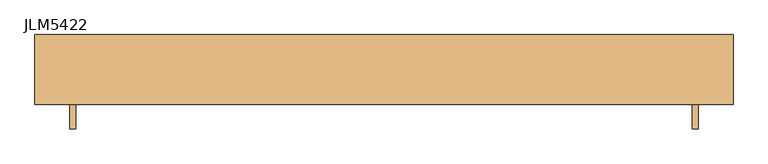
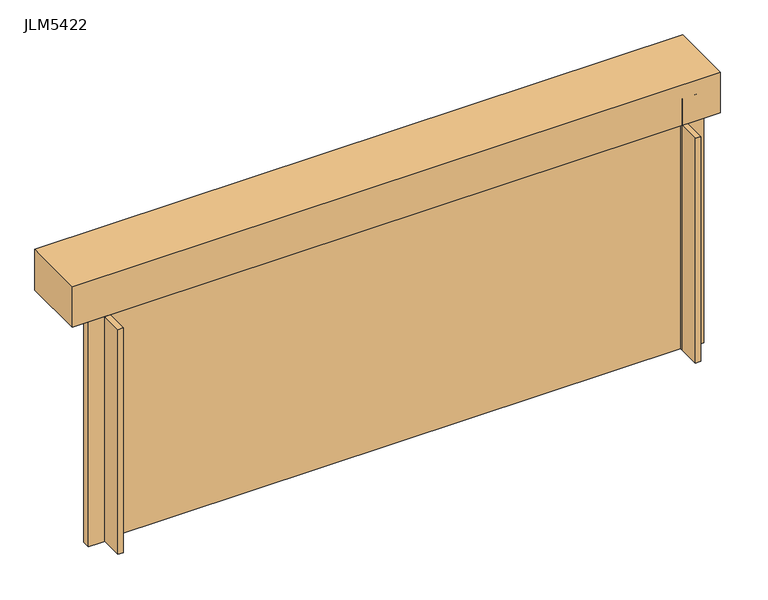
"""IFC4 building model written with IfcOpenShell, lengths in millimetres: door geometry, 卷帘门 : JLM5422."""

from ifc_helpers import new_model, si_unit, frame, origin, origin_with_axes, place, context, project, spatial, polyline, outline, extrude, source, transform, mapped, element, save


def jlm5422_f6e8e53c(model_context):
    return source(origin(), model_context, "Body", "SweptSolid", [
        extrude(outline(polyline([(2700.0, 130.0), (-2700.0, 130.0), (-2700.0, 145.0), (2700.0, 145.0), (2700.0, 130.0)])), origin_with_axes(), (0.0, 0.0, 1.0), 2200.0),
        extrude(outline(polyline([(-2650.0, 105.0), (-2650.0, -105.0), (-2700.0, -105.0), (-2700.0, 105.0), (-2650.0, 105.0)])), origin_with_axes(), (0.0, 0.0, 1.0), 2200.0),
        extrude(outline(polyline([(2700.0, 105.0), (2700.0, -105.0), (2650.0, -105.0), (2650.0, 105.0), (2700.0, 105.0)])), origin_with_axes(), (0.0, 0.0, 1.0), 2200.0),
        extrude(outline(polyline([(3000.0, 105.0), (-3000.0, 105.0), (-3000.0, 705.0), (3000.0, 705.0), (3000.0, 105.0)])), frame((0.0, 0.0, 2200.0), z_axis=(0.0, 0.0, 1.0), x_axis=(1.0, 0.0, 0.0)), (0.0, 0.0, 1.0), 400.0),
        extrude(outline(polyline([(-2650.0, 180.0), (-2650.0, 105.0), (-2850.0, 105.0), (-2850.0, 180.0), (-2650.0, 180.0)])), origin_with_axes(), (0.0, 0.0, 1.0), 2460.0),
        extrude(outline(polyline([(2850.0, 180.0), (2850.0, 105.0), (2650.0, 105.0), (2650.0, 180.0), (2850.0, 180.0)])), origin_with_axes(), (0.0, 0.0, 1.0), 2460.0),
    ])


if __name__ == "__main__":
    model = new_model("IFC4")
    model_context = context("Model", 3, world=origin())
    ifc_project = project(units=[si_unit("LENGTHUNIT", "METRE", prefix="MILLI")], contexts=[model_context])
    site = spatial("IfcSite", under=ifc_project)
    building = spatial("IfcBuilding", under=site)
    placement = place(None, origin())
    jlm5422_shape = jlm5422_f6e8e53c(model_context)
    element("IfcDoor", 1, ObjectType="卷帘门 : JLM5422", at=placement, inside=building, context=model_context, shape_type="MappedRepresentation", body=[
        mapped(jlm5422_shape, transform((0.0, 0.0, 0.0), x_axis=(1.0, 0.0, 0.0), y_axis=(0.0, 1.0, 0.0), z_axis=(0.0, 0.0, 1.0))),
    ])
    save(model, "model.ifc")
